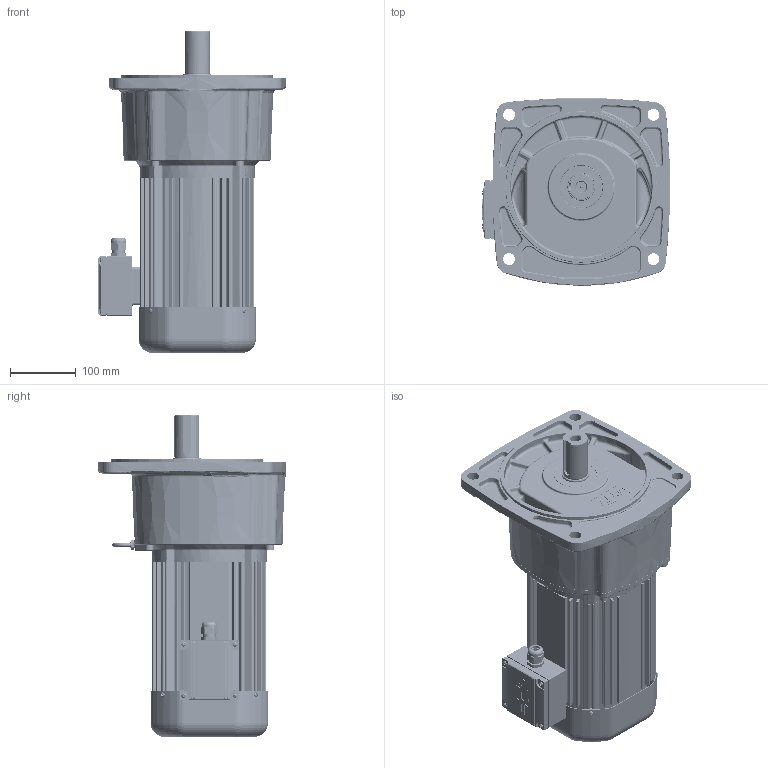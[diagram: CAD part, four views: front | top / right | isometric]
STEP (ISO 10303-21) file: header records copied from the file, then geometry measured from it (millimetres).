
FILE_DESCRIPTION(/* description */ (''),/* implementation_level */ '2;1');
FILE_NAME(/* name */ 'PAF40_1.5kW_3D.stp',/* time_stamp */ '2026-03-18T18:07:33+09:00',/* author */ ('jaebok'),/* organization */ (''),/* preprocessor_version */ 'ST-DEVELOPER v20.1',/* originating_system */ 'Autodesk Inventor 2026',/* authorisation */ '');
FILE_SCHEMA (('AUTOMOTIVE_DESIGN { 1 0 10303 214 3 1 1 }'));
Products named in the file (1): 부품5
Bounding box: 285.12 x 284.62 x 488.5 mm (x, y, z)
Volume: 4366155 mm3; surface area: 1122297.6 mm2
Topology: 2 solids, 33 shells, 4114 faces, 10243 edges, 6053 vertices
Faces by surface type: bspline 1274, plane 1094, cylinder 971, torus 379, cone 279, sphere 117
Full cylindrical faces by diameter (mm): 2 x1, 3.25 x1, 3.6 x4, 4 x22, 4.917 x4, 5 x17, 6 x1, 6.647 x1, 6.8 x4, 7 x13, 8 x8, 8.8 x4, 10 x1, 12.5 x1, 13 x4, 15 x1, 16 x1, 20 x2, 20.6 x1, 21 x1, 22 x1, 23.6 x1, 25 x1, 26 x1, 28 x1, 36 x1, 38 x2, 39.6 x1, 40 x2, 40.15 x1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
Entity records: 168424 total; most frequent: CARTESIAN_POINT 75073, ORIENTED_EDGE 19978, DIRECTION 16701, EDGE_CURVE 9989, AXIS2_PLACEMENT_3D 6881, VERTEX_POINT 6051, EDGE_LOOP 4352, FACE_OUTER_BOUND 4114
